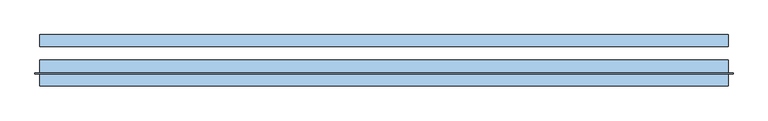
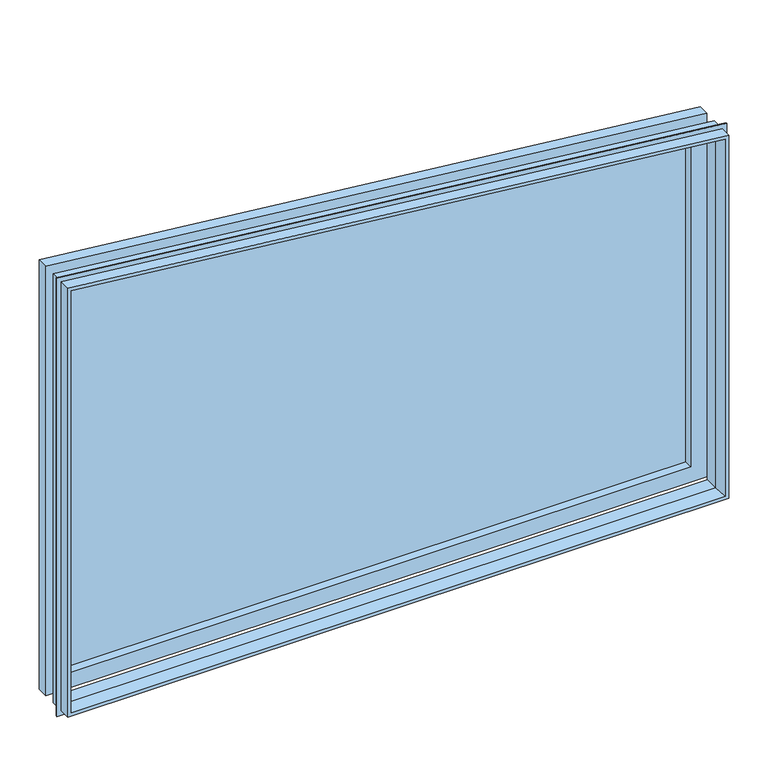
"""IFC4 building model written with IfcOpenShell, lengths in millimetres: window geometry, trapzoid_1824 : Menuiserie 1.3."""

from ifc_helpers import new_model, si_unit, frame, origin, place, context, project, spatial, polyline, outline, extrude, faceted_brep, source, transform, mapped, element, save


def window_c3426ef7(model_context):
    return source(origin(), model_context, "Body", "SolidModel", [
        extrude(outline(polyline([(2135.076109, -1032.95), (958.85, -1032.95), (958.85, 728.15), (1949.9770402, 728.15), (2135.076109, -1032.95)])), frame((0.0, -59.53125, 0.0), z_axis=(0.0, 1.0, 0.0), x_axis=(0.0, 0.0, 1.0)), (0.0, 0.0, 1.0), 3.175),
        faceted_brep([(772.6, -84.93125, 1990.0), (-1077.4, -84.93125, 2184.4428352), (-1077.4, -84.93125, 914.4), (772.6, -84.93125, 914.4), (728.15, -84.93125, 958.85), (-1032.95, -84.93125, 958.85), (-1032.95, -84.93125, 2135.076109), (728.15, -84.93125, 1949.9770402), (772.6, -53.18125, 914.4), (772.6, -53.18125, 1990.0), (-1077.4, -53.18125, 914.4), (-1077.4, -53.18125, 2184.4428352), (728.15, -53.18125, 1949.9770402), (728.15, -53.18125, 958.85), (-1032.95, -53.18125, 2135.076109), (-1032.95, -53.18125, 958.85)], [[[0, 1, 2, 3], [4, 5, 6, 7]], [[3, 8, 9, 0]], [[2, 10, 8, 3]], [[1, 11, 10, 2]], [[7, 12, 13, 4]], [[6, 14, 12, 7]], [[5, 15, 14, 6]], [[4, 13, 15, 5]], [[9, 8, 10, 11], [13, 12, 14, 15]], [[0, 9, 11, 1]]]),
        faceted_brep([(753.55, -121.075, 1972.847303), (753.55, -159.175, 1972.847303), (-1058.35, -159.175, 2163.2856668), (-1058.35, -121.075, 2163.2856668), (-1058.35, -159.175, 933.45), (-1058.35, -121.075, 933.45), (753.55, -159.175, 933.45), (753.55, -121.075, 933.45), (-1090.1, -159.175, 2198.5476142), (-1090.1, -159.175, 901.7), (785.3, -159.175, 901.7), (785.3, -159.175, 2001.4351314), (772.6, -159.175, 1990.0), (772.6, -159.175, 914.4), (-1077.4, -159.175, 914.4), (-1077.4, -159.175, 2184.4428352), (772.6, -121.075, 1990.0), (772.6, -121.075, 914.4), (-1077.4, -121.075, 914.4), (-1077.4, -121.075, 2184.4428352), (-1077.4, -156.0, 914.4), (-1077.4, -156.0, 2184.4428352), (772.6, -156.0, 914.4), (772.6, -156.0, 1990.0), (785.3, -156.0, 901.7), (785.3, -156.0, 2001.4351314), (-1090.1, -156.0, 901.7), (-1090.1, -156.0, 2198.5476142), (-1077.4, -190.925, 2184.4428352), (-1077.4, -190.925, 914.4), (772.6, -190.925, 914.4), (772.6, -190.925, 1990.0), (762.8109278, -190.925, 1981.1858798), (762.8109278, -190.925, 924.1890722), (-1067.6109278, -190.925, 924.1890722), (-1067.6109278, -190.925, 2173.5709691)], [[[0, 1, 2, 3]], [[3, 2, 4, 5]], [[5, 4, 6, 7]], [[7, 6, 1, 0]], [[8, 9, 10, 11], [12, 13, 14, 15]], [[16, 17, 18, 19], [3, 5, 7, 0]], [[19, 18, 20, 21]], [[17, 22, 20, 18]], [[23, 22, 17, 16]], [[10, 24, 25, 11]], [[9, 26, 24, 10]], [[8, 27, 26, 9]], [[25, 24, 26, 27], [21, 20, 22, 23]], [[16, 19, 21, 23]], [[11, 25, 27, 8]], [[28, 29, 30, 31], [32, 33, 34, 35]], [[35, 34, 4, 2]], [[33, 6, 4, 34]], [[1, 6, 33, 32]], [[30, 13, 12, 31]], [[29, 14, 13, 30]], [[28, 15, 14, 29]], [[1, 32, 35, 2]], [[31, 12, 15, 28]]]),
    ])


if __name__ == "__main__":
    model = new_model("IFC4")
    model_context = context("Model", 3, world=origin())
    ifc_project = project(units=[si_unit("LENGTHUNIT", "METRE", prefix="MILLI")], contexts=[model_context])
    site = spatial("IfcSite", under=ifc_project)
    building = spatial("IfcBuilding", under=site)
    placement = place(None, origin())
    window_shape = window_c3426ef7(model_context)
    element("IfcWindow", 1, ObjectType="trapzoid_1824 : Menuiserie 1.3", at=placement, inside=building, context=model_context, shape_type="MappedRepresentation", body=[
        mapped(window_shape, transform((0.0, 0.0, 0.0), x_axis=(1.0, 0.0, 0.0), y_axis=(0.0, 1.0, 0.0), z_axis=(0.0, 0.0, 1.0))),
    ])
    save(model, "model.ifc")
